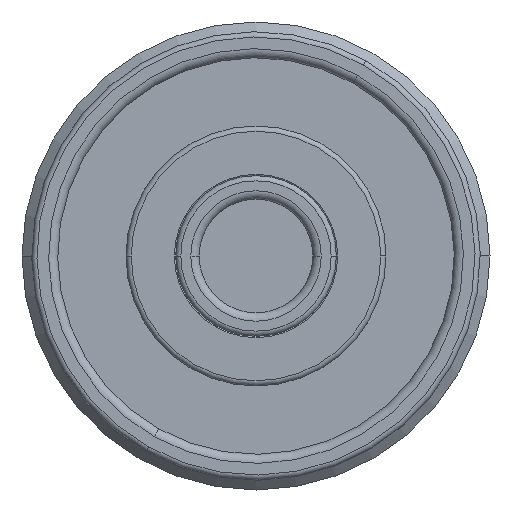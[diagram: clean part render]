
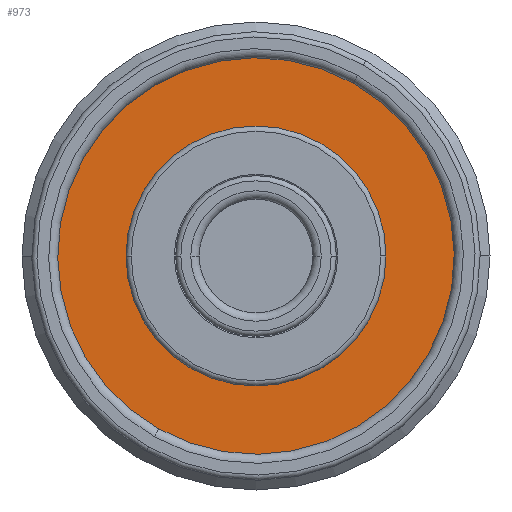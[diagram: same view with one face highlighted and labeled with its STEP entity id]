
A CAD part, front view. The second image highlights one B-rep face of the part: STEP entity #973.
In plain terms, the highlighted planar face has unit normal (0, -1, 0).
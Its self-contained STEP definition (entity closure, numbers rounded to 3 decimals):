
#759=PLANE('',#3232);
#795=FACE_BOUND('',#1313,.T.);
#796=FACE_BOUND('',#1314,.T.);
#973=ADVANCED_FACE('',(#795,#796),#759,.F.);
#1313=EDGE_LOOP('',(#2015,#2016));
#1314=EDGE_LOOP('',(#2017,#2018));
#2015=ORIENTED_EDGE('',*,*,#2698,.T.);
#2016=ORIENTED_EDGE('',*,*,#2580,.T.);
#2017=ORIENTED_EDGE('',*,*,#2653,.T.);
#2018=ORIENTED_EDGE('',*,*,#2697,.T.);
#2318=VERTEX_POINT('',#4606);
#2319=VERTEX_POINT('',#4607);
#2378=VERTEX_POINT('',#4778);
#2379=VERTEX_POINT('',#4780);
#2580=EDGE_CURVE('',#2318,#2319,#2860,.T.);
#2653=EDGE_CURVE('',#2379,#2378,#2894,.T.);
#2697=EDGE_CURVE('',#2378,#2379,#2923,.T.);
#2698=EDGE_CURVE('',#2319,#2318,#2924,.T.);
#2860=CIRCLE('',#3130,16.9);
#2894=CIRCLE('',#3180,10.);
#2923=CIRCLE('',#3229,10.);
#2924=CIRCLE('',#3231,16.9);
#3130=AXIS2_PLACEMENT_3D('',#4605,#3698,#3699);
#3180=AXIS2_PLACEMENT_3D('',#4779,#3829,#3830);
#3229=AXIS2_PLACEMENT_3D('',#5035,#3932,#3933);
#3231=AXIS2_PLACEMENT_3D('',#5037,#3936,#3937);
#3232=AXIS2_PLACEMENT_3D('',#5038,#3938,#3939);
#3698=DIRECTION('',(0.,-1.,0.));
#3699=DIRECTION('',(-1.,0.,0.));
#3829=DIRECTION('',(0.,1.,0.));
#3830=DIRECTION('',(-1.,0.,0.));
#3932=DIRECTION('',(0.,1.,0.));
#3933=DIRECTION('',(-1.,0.,0.));
#3936=DIRECTION('',(0.,-1.,0.));
#3937=DIRECTION('',(-1.,0.,0.));
#3938=DIRECTION('',(0.,1.,0.));
#3939=DIRECTION('',(1.,0.,0.));
#4605=CARTESIAN_POINT('',(0.,21.6,0.));
#4606=CARTESIAN_POINT('',(16.9,21.6,0.));
#4607=CARTESIAN_POINT('',(-16.9,21.6,0.));
#4778=CARTESIAN_POINT('',(10.,21.6,0.));
#4779=CARTESIAN_POINT('',(0.,21.6,0.));
#4780=CARTESIAN_POINT('',(-10.,21.6,0.));
#5035=CARTESIAN_POINT('',(0.,21.6,0.));
#5037=CARTESIAN_POINT('',(0.,21.6,0.));
#5038=CARTESIAN_POINT('',(17.1,21.6,0.));
